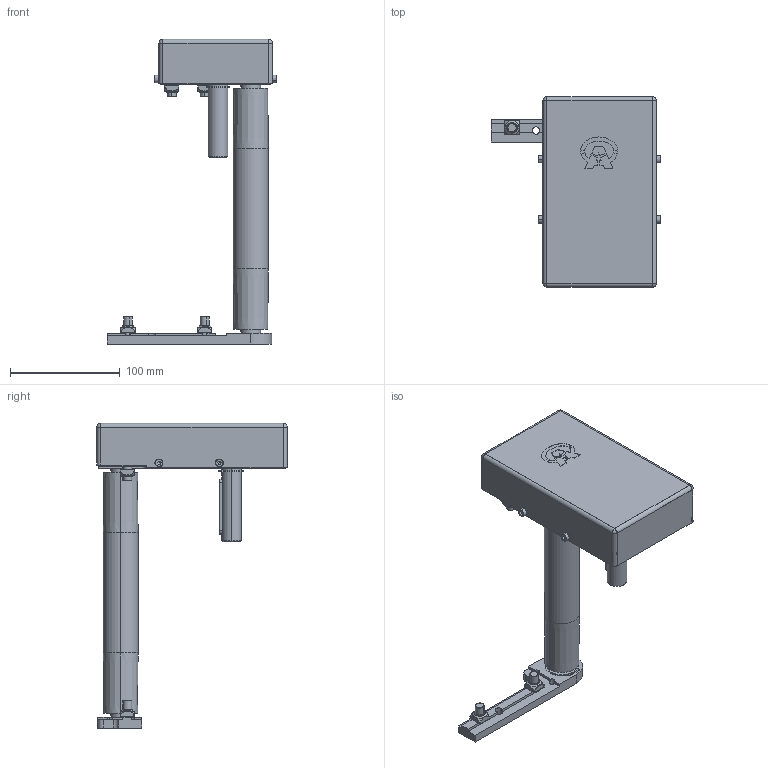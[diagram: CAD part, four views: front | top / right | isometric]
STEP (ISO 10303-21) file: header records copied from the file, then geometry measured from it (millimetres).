
FILE_DESCRIPTION (( 'STEP AP203' ), '1' );
FILE_NAME ('084.030.KT.44.200.STEP', '2019-07-29T09:56:24', ( '' ), ( '' ), 'SwSTEP 2.0', 'SolidWorks 2018', '' );
FILE_SCHEMA (( 'CONFIG_CONTROL_DESIGN' ));
Length unit declared in the file: millimetre
Products named in the file (19): Circlip DIN 471 - 18 x 1.2_Circlip DIN 471 - 18 x 1.2; CHIAVETTE_A 4x4x10 UNI 6604-69; 084.030.KT.44.200; 627.001.015; 084.801.053; ISO 4762 M4 x 12 --- 12S_ISO 4762 M4 x 12 --- 12S; 084.801.032; 084.801.042; 627.001.008; 627.001.009; 084.302.000 DADI ALUSIC 13x13-1_084.302.004; CHIAVETTE_A 6x6x50 UNI 6604-69; 627.005.003-1; CUSCINETTI A SFERE INOX_608-2RS INOX; 62012RSBOMB_62012RSBOMB; 084.801.027 sx; 084.801.030; 084.801.056; 084.301.000 VITI ALUSIC_084.301.003
Assembly tree (30 placements, depth 2):
  084.030.KT.44.200
    084.801.053
    627.005.003-1
    084.801.032
    084.801.042
    627.001.015
    627.001.009
    627.001.008
    084.801.030
    62012RSBOMB_62012RSBOMB  x2
    084.301.000 VITI ALUSIC_084.301.003  x4
    084.302.000 DADI ALUSIC 13x13-1_084.302.004  x4
    084.801.056
    084.801.027 sx
    CUSCINETTI A SFERE INOX_608-2RS INOX  x2
    Circlip DIN 471 - 18 x 1.2_Circlip DIN 471 - 18 x 1.2
    CHIAVETTE_A 6x6x50 UNI 6604-69
    CHIAVETTE_A 4x4x10 UNI 6604-69  x2
    ISO 4762 M4 x 12 --- 12S_ISO 4762 M4 x 12 --- 12S  x4
Bounding box: 154.75 x 173.5 x 278.5 mm (x, y, z)
Volume: 457632.4 mm3; surface area: 198810.7 mm2
Topology: 30 solids, 30 shells, 1768 faces, 4753 edges, 3065 vertices
Faces by surface type: plane 694, cylinder 654, cone 316, torus 64, bspline 24, sphere 16
Entity records: 42932 total; most frequent: CARTESIAN_POINT 7669, DIRECTION 7131, ORIENTED_EDGE 6850, EDGE_CURVE 3425, AXIS2_PLACEMENT_3D 2498, VERTEX_POINT 2250, VECTOR 2135, LINE 2135
